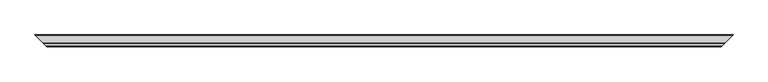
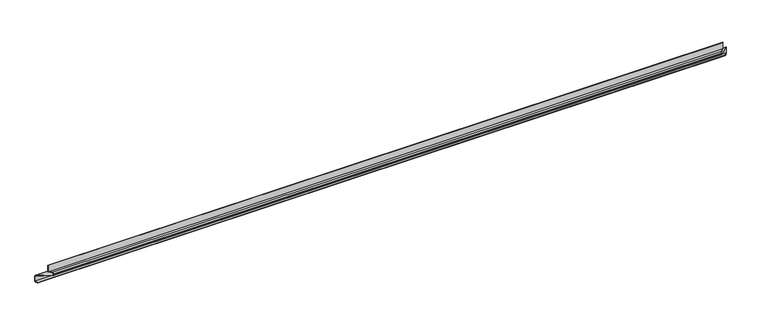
"""IFC4 building model written with IfcOpenShell, lengths in millimetres: proxy geometry, Слив_цоколя : Тип."""

from ifc_helpers import new_model, si_unit, frame, origin, place, context, project, spatial, polyline, ellipse_curve, source, transform, mapped, element, save
from ifc_brep_helpers import plane_surface, cylinder_surface, revolved_surface, advanced_brep


def generic_models_e644d43c(model_context):
    return source(origin(), model_context, "Body", "AdvancedBrep", [
        advanced_brep(
        [(-2195.9959245, 220.7097399, -35.1867822), (-2203.5627812, 228.2765966, -42.0595371), (2453.5627812, 228.2765966, -42.0595371), (2445.9959245, 220.7097399, -35.1867822), (-2220.2861846, 245.0, -34.6571153), (2470.2861846, 245.0, -34.6571153), (-2220.2861846, 245.0, 0.0), (2470.2861846, 245.0, 0.0), (-2216.5570128, 241.2708281, 4.8358035), (2466.5570128, 241.2708281, 4.8358035), (-2185.2861846, 210.0, 13.8714094), (-2145.2509766, 169.964792, 25.4394549), (2395.2509766, 169.964792, 25.4394549), (2435.2861846, 210.0, 13.8714094), (-2141.5218048, 166.2356202, 30.2752584), (2391.5218048, 166.2356202, 30.2752584), (-2141.5218048, 166.2356202, 37.8625579), (2391.5218048, 166.2356202, 37.8625579), (-2146.5218048, 171.2356202, 42.8625579), (2396.5218048, 171.2356202, 42.8625579), (-2165.2861846, 190.0, 42.8625579), (2415.2861846, 190.0, 42.8625579), (-2165.2861846, 190.0, 90.6442999), (2415.2861846, 190.0, 90.6442999), (-2163.2861846, 188.0, 90.6442999), (2413.2861846, 188.0, 90.6442999), (-2163.2861846, 188.0, 44.8625579), (2413.2861846, 188.0, 44.8625579), (-2146.5218048, 171.2356202, 44.8625579), (2396.5218048, 171.2356202, 44.8625579), (-2139.5218048, 164.2356202, 37.8625579), (2389.5218048, 164.2356202, 37.8625579), (-2139.5218048, 164.2356202, 30.2752584), (2389.5218048, 164.2356202, 30.2752584), (-2144.717182, 169.4309974, 23.5118764), (2394.717182, 169.4309974, 23.5118764), (-2185.2861846, 210.0, 11.7895927), (-2216.0281436, 240.741959, 2.9068018), (2466.0281436, 240.741959, 2.9068018), (2435.2861846, 210.0, 11.7895927), (-2218.2861846, 243.0, 0.0), (2468.2861846, 243.0, 0.0), (-2218.2861846, 243.0, -34.6571153), (2468.2861846, 243.0, -34.6571153), (-2204.9074619, 229.6212773, -40.5790527), (2454.9074619, 229.6212773, -40.5790527), (-2197.411771, 222.1255864, -33.7709357), (2447.411771, 222.1255864, -33.7709357)],
        [
            (0, 1),
            (1, 2),
            (2, 3),
            (3, 0),
            (1, 4, ellipse_curve(frame((-2210.2861846, 235.0, -34.6571153), z_axis=(0.7071067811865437, 0.7071067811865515, 0.0), x_axis=(0.7071067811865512, -0.7071067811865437, 0.0)), 14.1421356, 10.0)),
            (4, 5),
            (5, 2, ellipse_curve(frame((2460.2861846, 235.0, -34.6571153), z_axis=(-0.7071067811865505, 0.7071067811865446, 0.0), x_axis=(0.7071067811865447, 0.7071067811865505, 0.0)), 14.1421356, 10.0)),
            (4, 6),
            (6, 7),
            (7, 5),
            (6, 8, ellipse_curve(frame((-2215.2861846, 240.0, 0.0), z_axis=(0.7071067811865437, 0.7071067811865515, 0.0), x_axis=(0.7071067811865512, -0.7071067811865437, 0.0)), 7.0710678, 5.0)),
            (8, 9),
            (9, 7, ellipse_curve(frame((2465.2861846, 240.0, 0.0), z_axis=(-0.7071067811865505, 0.7071067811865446, 0.0), x_axis=(0.7071067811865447, 0.7071067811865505, 0.0)), 7.0710678, 5.0)),
            (8, 10),
            (10, 11),
            (11, 12),
            (12, 13),
            (13, 9),
            (11, 14, ellipse_curve(frame((-2146.5218048, 171.2356202, 30.2752584), z_axis=(-0.707106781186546, -0.7071067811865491, 0.0), x_axis=(-0.7071067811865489, 0.707106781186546, 0.0)), 7.0710678, 5.0)),
            (14, 15),
            (15, 12, ellipse_curve(frame((2396.5218048, 171.2356202, 30.2752584), z_axis=(0.7071067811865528, -0.7071067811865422, 0.0), x_axis=(-0.7071067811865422, -0.7071067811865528, 0.0)), 7.0710678, 5.0)),
            (14, 16),
            (16, 17),
            (17, 15),
            (16, 18, ellipse_curve(frame((-2146.5218048, 171.2356202, 37.8625579), z_axis=(-0.707106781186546, -0.7071067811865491, 0.0), x_axis=(-0.7071067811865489, 0.707106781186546, 0.0)), 7.0710678, 5.0)),
            (18, 19),
            (19, 17, ellipse_curve(frame((2396.5218048, 171.2356202, 37.8625579), z_axis=(0.7071067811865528, -0.7071067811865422, 0.0), x_axis=(-0.7071067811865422, -0.7071067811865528, 0.0)), 7.0710678, 5.0)),
            (18, 20),
            (20, 21),
            (21, 19),
            (20, 22),
            (22, 23),
            (23, 21),
            (22, 24),
            (24, 25),
            (25, 23),
            (24, 26),
            (26, 27),
            (27, 25),
            (26, 28),
            (28, 29),
            (29, 27),
            (28, 30, ellipse_curve(frame((-2146.5218048, 171.2356202, 37.8625579), z_axis=(0.707106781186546, 0.7071067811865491, 0.0), x_axis=(0.7071067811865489, -0.707106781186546, 0.0)), 9.8994949, 7.0)),
            (30, 31),
            (31, 29, ellipse_curve(frame((2396.5218048, 171.2356202, 37.8625579), z_axis=(-0.7071067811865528, 0.7071067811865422, 0.0), x_axis=(0.7071067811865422, 0.7071067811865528, 0.0)), 9.8994949, 7.0)),
            (30, 32),
            (32, 33),
            (33, 31),
            (32, 34, ellipse_curve(frame((-2146.5218048, 171.2356202, 30.2752584), z_axis=(0.707106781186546, 0.7071067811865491, 0.0), x_axis=(0.7071067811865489, -0.707106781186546, 0.0)), 9.8994949, 7.0)),
            (34, 35),
            (35, 33, ellipse_curve(frame((2396.5218048, 171.2356202, 30.2752584), z_axis=(-0.7071067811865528, 0.7071067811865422, 0.0), x_axis=(0.7071067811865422, 0.7071067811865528, 0.0)), 9.8994949, 7.0)),
            (36, 37),
            (37, 38),
            (38, 39),
            (39, 35),
            (34, 36),
            (37, 40, ellipse_curve(frame((-2215.2861846, 240.0, 0.0), z_axis=(-0.7071067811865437, -0.7071067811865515, 0.0), x_axis=(-0.7071067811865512, 0.7071067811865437, 0.0)), 4.2426407, 3.0)),
            (40, 41),
            (41, 38, ellipse_curve(frame((2465.2861846, 240.0, 0.0), z_axis=(0.7071067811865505, -0.7071067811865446, 0.0), x_axis=(-0.7071067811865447, -0.7071067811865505, 0.0)), 4.2426407, 3.0)),
            (40, 42),
            (42, 43),
            (43, 41),
            (42, 44, ellipse_curve(frame((-2210.2861846, 235.0, -34.6571153), z_axis=(-0.7071067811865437, -0.7071067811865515, 0.0), x_axis=(-0.7071067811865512, 0.7071067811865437, 0.0)), 11.3137085, 8.0)),
            (44, 45),
            (45, 43, ellipse_curve(frame((2460.2861846, 235.0, -34.6571153), z_axis=(0.7071067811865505, -0.7071067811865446, 0.0), x_axis=(-0.7071067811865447, -0.7071067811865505, 0.0)), 11.3137085, 8.0)),
            (44, 46),
            (46, 47),
            (47, 45),
            (46, 0),
            (3, 47),
            (36, 10),
            (39, 13),
        ],
        [
            plane_surface(frame((2935.2861846, 220.7097399, -35.1867822), z_axis=(0.0, -0.6723403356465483, -0.7402421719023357), x_axis=(-1.0, 0.0, 0.0))),
            cylinder_surface(frame((-2685.2861846, 235.0, -34.6571153), z_axis=(1.0, 0.0, 0.0), x_axis=(0.0, 1.0, 0.0)), 10.0),
            plane_surface(frame((2935.2861846, 245.0, -34.6571153), z_axis=(0.0, 1.0, 0.0), x_axis=(-1.0, 0.0, 0.0))),
            cylinder_surface(frame((-2685.2861846, 240.0, 0.0), z_axis=(1.0, 0.0, 0.0), x_axis=(0.0, 1.0, 0.0)), 5.0),
            plane_surface(frame((2935.2861846, 241.2708281, 4.8358035), z_axis=(0.0, 0.27759100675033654, 0.9606993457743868), x_axis=(-1.0, 0.0, 0.0))),
            revolved_surface(polyline([(-2151.52180479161, 176.2356202, 30.2752584), (2401.52180479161, 176.2356202, 30.2752584)]), (-2685.2861846, 171.2356202, 30.2752584), (-1.0, 0.0, 0.0)),
            plane_surface(frame((2935.2861846, 166.2356202, 30.2752584), z_axis=(0.0, 1.0, 0.0), x_axis=(-1.0, 0.0, 0.0))),
            revolved_surface(polyline([(-2151.52180479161, 176.2356202, 37.8625579), (2401.52180479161, 176.2356202, 37.8625579)]), (-2685.2861846, 171.2356202, 37.8625579), (-1.0, 0.0, 0.0)),
            plane_surface(frame((2935.2861846, 171.2356202, 42.8625579), z_axis=(0.0, 0.0, -1.0), x_axis=(-1.0, 0.0, 0.0))),
            plane_surface(frame((2935.2861846, 190.0, 42.8625579), z_axis=(0.0, 1.0, 0.0), x_axis=(-1.0, 0.0, 0.0))),
            plane_surface(frame((2935.2861846, 190.0, 90.6442999), z_axis=(0.0, 0.0, 1.0), x_axis=(-1.0, 0.0, 0.0))),
            plane_surface(frame((2935.2861846, 188.0, 90.6442999), z_axis=(0.0, -1.0, 0.0), x_axis=(-1.0, 0.0, 0.0))),
            plane_surface(frame((2935.2861846, 188.0, 44.8625579), z_axis=(0.0, 0.0, 1.0), x_axis=(-1.0, 0.0, 0.0))),
            cylinder_surface(frame((-2685.2861846, 171.2356202, 37.8625579), z_axis=(1.0, 0.0, 0.0), x_axis=(0.0, 1.0, 0.0)), 7.0),
            plane_surface(frame((2935.2861846, 164.2356202, 37.8625579), z_axis=(0.0, -1.0, 0.0), x_axis=(-1.0, 0.0, 0.0))),
            cylinder_surface(frame((-2685.2861846, 171.2356202, 30.2752584), z_axis=(1.0, 0.0, 0.0), x_axis=(0.0, 1.0, 0.0)), 7.0),
            plane_surface(frame((2935.2861846, 169.4309974, 23.5118764), z_axis=(0.0, -0.2775910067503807, -0.960699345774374), x_axis=(-1.0, 0.0, 0.0))),
            revolved_surface(polyline([(-2218.286184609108, 243.0, 0.0), (2468.2861846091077, 243.0, 0.0)]), (-2685.2861846, 240.0, 0.0), (-1.0, 0.0, 0.0)),
            plane_surface(frame((2935.2861846, 243.0, 0.0), z_axis=(0.0, -1.0, 0.0), x_axis=(-1.0, 0.0, 0.0))),
            revolved_surface(polyline([(-2218.286184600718, 243.0, -34.6571153), (2468.2861846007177, 243.0, -34.6571153)]), (-2685.2861846, 235.0, -34.6571153), (-1.0, 0.0, 0.0)),
            plane_surface(frame((2935.2861846, 229.6212773, -40.5790527), z_axis=(0.0, 0.6723403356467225, 0.7402421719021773), x_axis=(-1.0, 0.0, 0.0))),
            plane_surface(frame((2935.2861846, 222.1255864, -33.7709357), z_axis=(0.0, -0.7071067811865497, 0.7071067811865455), x_axis=(-1.0, 0.0, 0.0))),
            plane_surface(frame((-2185.2861846, 210.0, 508.0), z_axis=(-0.7071067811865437, -0.7071067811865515, 0.0), x_axis=(-0.7071067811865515, 0.7071067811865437, 0.0))),
            plane_surface(frame((-2185.2861846, 210.0, 508.0), z_axis=(-0.707106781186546, -0.7071067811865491, 0.0), x_axis=(0.7071067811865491, -0.707106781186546, 0.0))),
            plane_surface(frame((2435.2861846, 210.0, -508.0), z_axis=(0.7071067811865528, -0.7071067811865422, 0.0), x_axis=(-0.7071067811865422, -0.7071067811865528, 0.0))),
            plane_surface(frame((2435.2861846, 210.0, -508.0), z_axis=(0.7071067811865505, -0.7071067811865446, 0.0), x_axis=(0.7071067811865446, 0.7071067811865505, 0.0))),
        ],
        [
            (0, [[1, 2, 3, 4]]),
            (1, [[5, 6, 7, -2]]),
            (2, [[8, 9, 10, -6]]),
            (3, [[11, 12, 13, -9]]),
            (4, [[14, 15, 16, 17, 18, -12]]),
            (5, [[19, 20, 21, -16]]),
            (6, [[22, 23, 24, -20]]),
            (7, [[25, 26, 27, -23]]),
            (8, [[28, 29, 30, -26]]),
            (9, [[31, 32, 33, -29]]),
            (10, [[34, 35, 36, -32]]),
            (11, [[37, 38, 39, -35]]),
            (12, [[40, 41, 42, -38]]),
            (13, [[43, 44, 45, -41]]),
            (14, [[46, 47, 48, -44]]),
            (15, [[49, 50, 51, -47]]),
            (16, [[52, 53, 54, 55, -50, 56]]),
            (17, [[57, 58, 59, -53]]),
            (18, [[60, 61, 62, -58]]),
            (19, [[63, 64, 65, -61]]),
            (20, [[66, 67, 68, -64]]),
            (21, [[69, -4, 70, -67]]),
            (22, [[71, -14, -11, -8, -5, -1, -69, -66, -63, -60, -57, -52]]),
            (23, [[-71, -56, -49, -46, -43, -40, -37, -34, -31, -28, -25, -22, -19, -15]]),
            (24, [[72, -17, -21, -24, -27, -30, -33, -36, -39, -42, -45, -48, -51, -55]]),
            (25, [[-72, -54, -59, -62, -65, -68, -70, -3, -7, -10, -13, -18]]),
        ],
    ),
    ])


if __name__ == "__main__":
    model = new_model("IFC4")
    model_context = context("Model", 3, world=origin())
    ifc_project = project(units=[si_unit("LENGTHUNIT", "METRE", prefix="MILLI")], contexts=[model_context])
    site = spatial("IfcSite", under=ifc_project)
    building = spatial("IfcBuilding", under=site)
    placement = place(None, origin())
    generic_models_shape = generic_models_e644d43c(model_context)
    element("IfcBuildingElementProxy", 1, Name="Слив_цоколя : Тип", ObjectType="Слив_цоколя : Тип", at=placement, inside=building, context=model_context, shape_type="MappedRepresentation", body=[
        mapped(generic_models_shape, transform((0.0, 0.0, 0.0), x_axis=(1.0, 0.0, 0.0), y_axis=(0.0, 1.0, 0.0), z_axis=(0.0, 0.0, 1.0))),
    ])
    save(model, "model.ifc")
